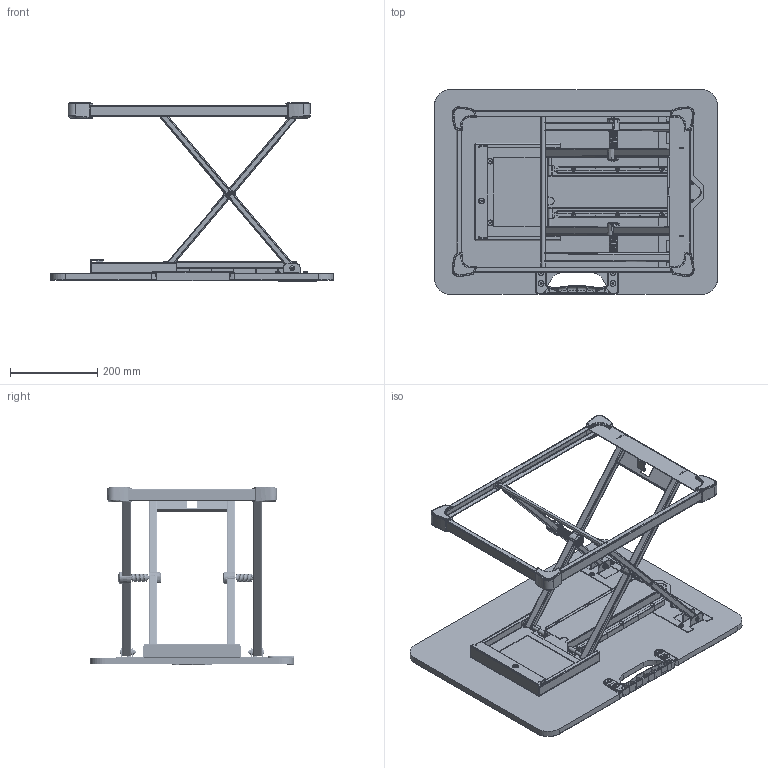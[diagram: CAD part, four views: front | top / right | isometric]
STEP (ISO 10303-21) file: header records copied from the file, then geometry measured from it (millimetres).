
FILE_DESCRIPTION(('CATIA V5 STEP Exchange'),'2;1');
FILE_NAME('C:\Users\nbfly\Desktop\AK-MR-P13-2气动桌上桌stp（隐藏气弹簧）.stp','2020-08-24T00:57:44+00:00',('none'),('none'),'CATIA Version 5 Release 21 GA (IN-10)','CATIA V5 STEP AP203','none');
FILE_SCHEMA(('CONFIG_CONTROL_DESIGN'));
Products named in the file (6): 气弹簧桌上桌; dizhuo; xiaozhichenggan; dazhichenggan; 中间折弯板焊接件-V2; 塑料开关总成
Assembly tree (88 placements, depth 3):
  气弹簧桌上桌
    dizhuo
      #66
      #956
      #1846
      #2671
      #4333
    xiaozhichenggan
      #5420  x2
      #6238
    dazhichenggan
      #7539
      #7972  x2
      #8954  x2
      #9904  x2
    #10412
    #14554  x2
    #15102
    中间折弯板焊接件-V2
      #16116
      #18531  x2
    塑料开关总成
      #19071
      #34723
    #53532  x3
    #54674
    #70298  x3
    #71304
    #72310  x3
    #81656  x8
    #82312  x4
    #82932
    #85997
    #91138  x4
    #94963  x2
    #98859
    #99452
    #100050
    #101415  x2
    #102765  x8
    #103495
    #104120  x7
    #105545
    #110644
    #8954  x2
    #115833  x2
    #116017
Bounding box: 650 x 470 x 409.88 mm (x, y, z)
Volume: 5232914.3 mm3; surface area: 1596779 mm2
Topology: 83 solids, 83 shells, 4284 faces, 10741 edges, 6622 vertices
Faces by surface type: plane 1482, cylinder 1131, bspline 875, cone 396, torus 188, sphere 111, extrusion 83, revolution 18
Entity records: 115651 total; most frequent: CARTESIAN_POINT 58971, ORIENTED_EDGE 13468, DIRECTION 7839, EDGE_CURVE 6734, VERTEX_POINT 4210, AXIS2_PLACEMENT_3D 3266, EDGE_LOOP 2930, VECTOR 2867
